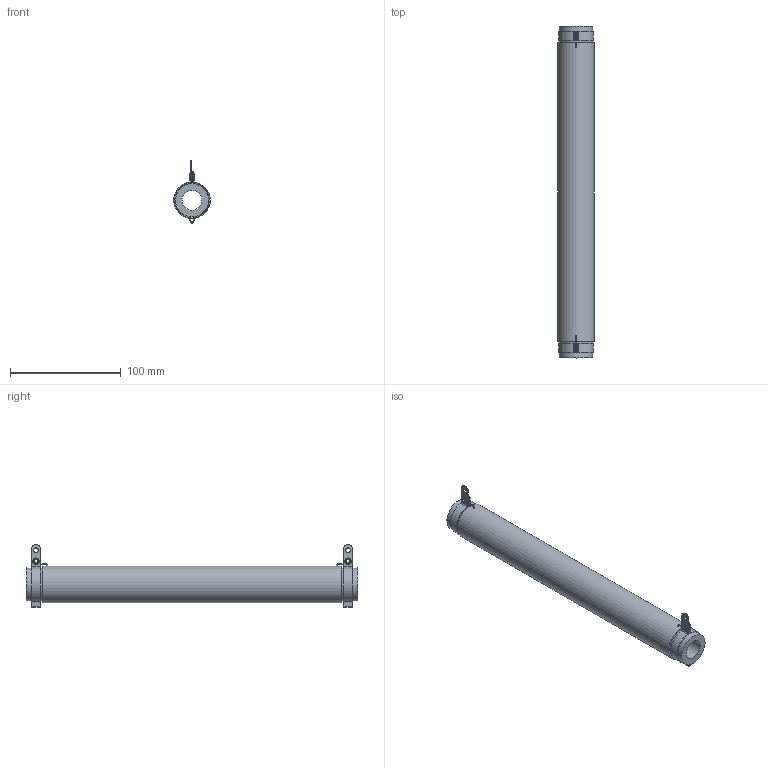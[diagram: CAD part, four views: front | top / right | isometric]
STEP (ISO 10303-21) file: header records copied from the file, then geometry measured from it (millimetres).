
FILE_DESCRIPTION(/* description */ (''),/* implementation_level */ '2;1');
FILE_NAME(/* name */ 'C:\_Vault\Dati\CATALOGO\RC-RS\TC\RS00300.stp',/* time_stamp */ '2014-01-22T17:42:27+01:00',/* author */ ('stefano'),/* organization */ (''),/* preprocessor_version */ 'ST-DEVELOPER v15.2',/* originating_system */ 'Autodesk Inventor 2014',/* authorisation */ '');
FILE_SCHEMA (('AUTOMOTIVE_DESIGN { 1 0 10303 214 3 1 1 }'));
Length unit declared in the file: millimetre
Products named in the file (1): RS00300
Bounding box: 33 x 300 x 56.36 mm (x, y, z)
Volume: 177499.9 mm3; surface area: 51168.9 mm2
Topology: 1 solids, 5 shells, 88 faces, 213 edges, 141 vertices
Faces by surface type: cylinder 38, plane 32, torus 10, bspline 8
Full cylindrical faces by diameter (mm): 0.4 x2, 0.8 x4, 3.2 x2, 4.2 x4, 6 x4, 18 x1, 30 x2, 33 x1
Entity records: 2983 total; most frequent: CARTESIAN_POINT 927, DIRECTION 398, ORIENTED_EDGE 340, AXIS2_PLACEMENT_3D 171, EDGE_CURVE 170, EDGE_LOOP 148, VERTEX_POINT 130, CIRCLE 90
